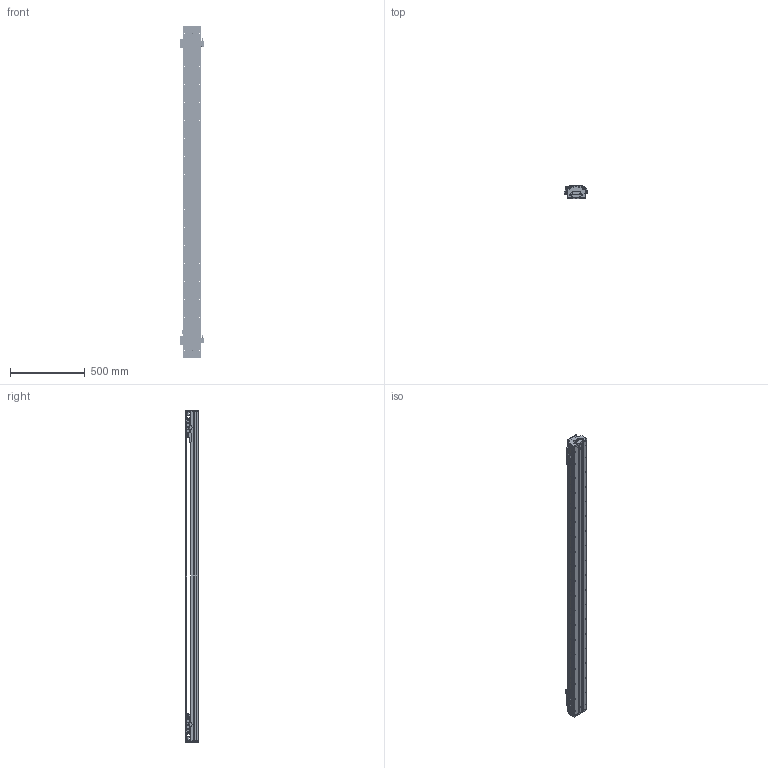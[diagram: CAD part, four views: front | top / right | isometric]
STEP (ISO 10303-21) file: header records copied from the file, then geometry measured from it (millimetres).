
FILE_DESCRIPTION (( 'STEP AP203' ), '1' );
FILE_NAME ('DKW120-2×B15-W060（T1820-L005-0.2）.STEP', '2021-09-29T06:04:54', ( '微软用户' ), ( '微软中国' ), 'SwSTEP 2.0', 'SolidWorks 2018', '' );
FILE_SCHEMA (( 'CONFIG_CONTROL_DESIGN' ));
Length unit declared in the file: millimetre
Products named in the file (26): 12160-0000-003-00 DKW120詩湍嶺輸; DKW120-2×B15-W060（T1820-L005-0.2）; BKM015-W060-C1-TP-3; RUS嫖掑喜; 12160-0000-004-00  DKW120詩湍揤輸; B15-W060; Ru2; DKW120 单轴模组-拉钢带组件; MSB15-DG-U; DKW119-RU-DTJ-00 RU2黍杅芛盓殤; BKMA01-W060-TRL280; 06652-0001-001-00 DKW120傷啣; 10980-0001-003-00 嫖萇羲壽嘐隅釱; DKW120-B15-T300-DZ-00 菁釱; 06652-0001-004-00 DKW120嶺輸菜輸; EE_SX674A; DKW-SG-GYP-H-00 嫖萇覜茼え; DKW-HXJ-JY-00 遣喳砎蝶; DKW-DG-XJ-Z-00 笢潔滅袉砎蝶; DKW-HYB-JY-A-00 賑輸揤啣A; 10940-0001-004-00 120詩湍裔啣; DKW-GYP-ZJ-00 笢潔嫖萇覜茼え; DKW119-HT-C15-00 賑怢啣; 砎蝶猾沭; DKW-KGZ-ZJ-00 中间光电开关支架; MSB15TS2FC+U92.7-16.35_16.35N_(0_45.85_0_01G-M4)
Assembly tree (48 placements, depth 3):
  DKW120-2×B15-W060（T1820-L005-0.2）
    DKW120-B15-T300-DZ-00 菁釱
    B15-W060  x2
      DKW-SG-GYP-H-00 嫖萇覜茼え
      DKW-HYB-JY-A-00 賑輸揤啣A
      DKW119-HT-C15-00 賑怢啣
      MSB15TS2FC+U92.7-16.35_16.35N_(0_45.85_0_01G-M4)
      BKM015-W060-C1-TP-3
    MSB15-DG-U  x2
    DKW120 单轴模组-拉钢带组件
      06652-0001-001-00 DKW120傷啣  x2
      06652-0001-004-00 DKW120嶺輸菜輸  x4
      DKW-HXJ-JY-00 遣喳砎蝶  x4
      10940-0001-004-00 120詩湍裔啣
      砎蝶猾沭  x2
      12160-0000-003-00 DKW120詩湍嶺輸  x2
      12160-0000-004-00  DKW120詩湍揤輸  x2
    BKMA01-W060-TRL280
    RUS嫖掑喜
    Ru2  x2
    DKW119-RU-DTJ-00 RU2黍杅芛盓殤  x2
    10980-0001-003-00 嫖萇羲壽嘐隅釱  x2
    EE_SX674A  x5
    DKW-DG-XJ-Z-00 笢潔滅袉砎蝶
    DKW-GYP-ZJ-00 笢潔嫖萇覜茼え
    DKW-KGZ-ZJ-00 中间光电开关支架
Bounding box: 154.09 x 84 x 2216 mm (x, y, z)
Volume: 7866914 mm3; surface area: 3125483.3 mm2
Topology: 76 solids, 174 shells, 7068 faces, 19180 edges, 12371 vertices
Faces by surface type: plane 4010, cylinder 1968, cone 556, bspline 534
Entity records: 134166 total; most frequent: CARTESIAN_POINT 47411, ORIENTED_EDGE 17903, DIRECTION 16507, EDGE_CURVE 8992, VERTEX_POINT 5897, AXIS2_PLACEMENT_3D 5546, VECTOR 5415, LINE 5415
